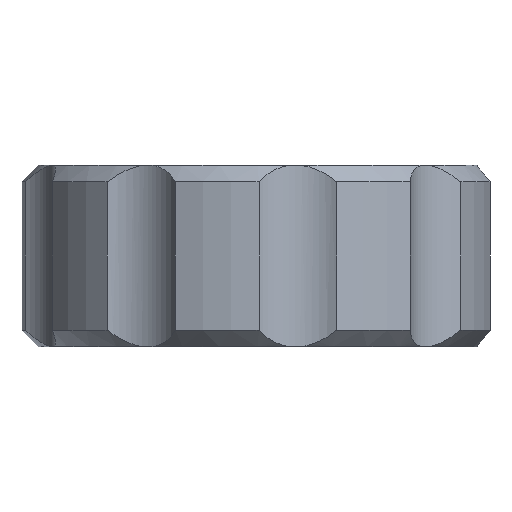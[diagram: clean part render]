
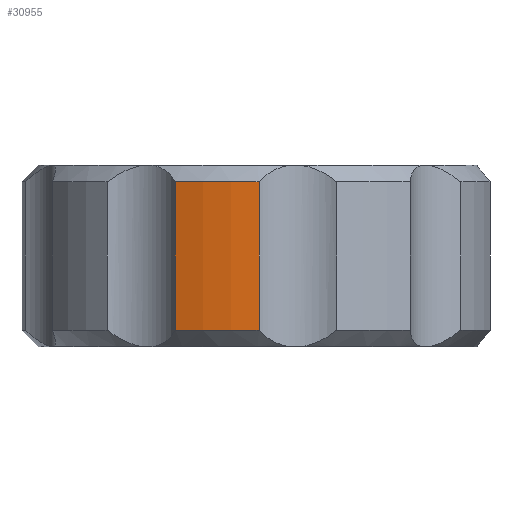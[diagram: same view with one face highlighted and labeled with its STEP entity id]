
A CAD part, left-side view. The second image highlights one B-rep face of the part: STEP entity #30955.
In plain terms, the highlighted cylindrical face has radius 7 mm (diameter 14 mm), a partial arc.
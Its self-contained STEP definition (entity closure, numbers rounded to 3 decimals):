
#1845 = CONICAL_SURFACE('',#1846,7.,0.785);
#1846 = AXIS2_PLACEMENT_3D('',#1847,#1848,#1849);
#1847 = CARTESIAN_POINT('',(196.,-56.5,30.7));
#1848 = DIRECTION('',(-0.,-0.,-1.));
#1849 = DIRECTION('',(1.,0.,0.));
#7015 = CONICAL_SURFACE('',#7016,7.,0.785);
#7016 = AXIS2_PLACEMENT_3D('',#7017,#7018,#7019);
#7017 = CARTESIAN_POINT('',(196.,-56.5,26.3));
#7018 = DIRECTION('',(0.,0.,1.));
#7019 = DIRECTION('',(1.,0.,-0.));
#12091 = CYLINDRICAL_SURFACE('',#12092,1.9);
#12092 = AXIS2_PLACEMENT_3D('',#12093,#12094,#12095);
#12093 = CARTESIAN_POINT('',(188.725,-52.3,24.8));
#12094 = DIRECTION('',(-0.,-0.,-1.));
#12095 = DIRECTION('',(1.,0.,0.));
#13141 = VERTEX_POINT('',#13142);
#13142 = CARTESIAN_POINT('',(189.,-56.548,30.7));
#13224 = CYLINDRICAL_SURFACE('',#13225,1.9);
#13225 = AXIS2_PLACEMENT_3D('',#13226,#13227,#13228);
#13226 = CARTESIAN_POINT('',(187.728,-57.959,24.8));
#13227 = DIRECTION('',(-0.,-0.,-1.));
#13228 = DIRECTION('',(1.,0.,0.));
#13272 = VERTEX_POINT('',#13273);
#13273 = CARTESIAN_POINT('',(189.439,-54.061,30.7));
#13396 = EDGE_CURVE('',#13141,#13272,#13397,.T.);
#13397 = SURFACE_CURVE('',#13398,(#13403,#13410),.PCURVE_S1.);
#13398 = CIRCLE('',#13399,7.);
#13399 = AXIS2_PLACEMENT_3D('',#13400,#13401,#13402);
#13400 = CARTESIAN_POINT('',(196.,-56.5,30.7));
#13401 = DIRECTION('',(0.,0.,-1.));
#13402 = DIRECTION('',(0.937,0.348,0.));
#13403 = PCURVE('',#1845,#13404);
#13404 = DEFINITIONAL_REPRESENTATION('',(#13405),#13409);
#13405 = LINE('',#13406,#13407);
#13406 = CARTESIAN_POINT('',(-6.639,-0.));
#13407 = VECTOR('',#13408,1.);
#13408 = DIRECTION('',(1.,-0.));
#13409 = ( GEOMETRIC_REPRESENTATION_CONTEXT(2) 
PARAMETRIC_REPRESENTATION_CONTEXT() REPRESENTATION_CONTEXT('2D SPACE',''
  ) );
#13410 = PCURVE('',#13411,#13416);
#13411 = CYLINDRICAL_SURFACE('',#13412,7.);
#13412 = AXIS2_PLACEMENT_3D('',#13413,#13414,#13415);
#13413 = CARTESIAN_POINT('',(196.,-56.5,25.8));
#13414 = DIRECTION('',(-0.,-0.,-1.));
#13415 = DIRECTION('',(1.,0.,0.));
#13416 = DEFINITIONAL_REPRESENTATION('',(#13417),#13421);
#13417 = LINE('',#13418,#13419);
#13418 = CARTESIAN_POINT('',(-6.639,-4.9));
#13419 = VECTOR('',#13420,1.);
#13420 = DIRECTION('',(1.,-0.));
#13421 = ( GEOMETRIC_REPRESENTATION_CONTEXT(2) 
PARAMETRIC_REPRESENTATION_CONTEXT() REPRESENTATION_CONTEXT('2D SPACE',''
  ) );
#22436 = VERTEX_POINT('',#22437);
#22437 = CARTESIAN_POINT('',(189.439,-54.061,26.3));
#22560 = EDGE_CURVE('',#22436,#22561,#22563,.T.);
#22561 = VERTEX_POINT('',#22562);
#22562 = CARTESIAN_POINT('',(189.,-56.548,26.3));
#22563 = SURFACE_CURVE('',#22564,(#22569,#22576),.PCURVE_S1.);
#22564 = CIRCLE('',#22565,7.);
#22565 = AXIS2_PLACEMENT_3D('',#22566,#22567,#22568);
#22566 = CARTESIAN_POINT('',(196.,-56.5,26.3));
#22567 = DIRECTION('',(0.,-0.,1.));
#22568 = DIRECTION('',(0.18,0.984,0.));
#22569 = PCURVE('',#7015,#22570);
#22570 = DEFINITIONAL_REPRESENTATION('',(#22571),#22575);
#22571 = LINE('',#22572,#22573);
#22572 = CARTESIAN_POINT('',(1.389,-0.));
#22573 = VECTOR('',#22574,1.);
#22574 = DIRECTION('',(1.,-0.));
#22575 = ( GEOMETRIC_REPRESENTATION_CONTEXT(2) 
PARAMETRIC_REPRESENTATION_CONTEXT() REPRESENTATION_CONTEXT('2D SPACE',''
  ) );
#22576 = PCURVE('',#13411,#22577);
#22577 = DEFINITIONAL_REPRESENTATION('',(#22578),#22582);
#22578 = LINE('',#22579,#22580);
#22579 = CARTESIAN_POINT('',(-1.389,-0.5));
#22580 = VECTOR('',#22581,1.);
#22581 = DIRECTION('',(-1.,0.));
#22582 = ( GEOMETRIC_REPRESENTATION_CONTEXT(2) 
PARAMETRIC_REPRESENTATION_CONTEXT() REPRESENTATION_CONTEXT('2D SPACE',''
  ) );
#30832 = EDGE_CURVE('',#13272,#22436,#30833,.T.);
#30833 = SURFACE_CURVE('',#30834,(#30838,#30844),.PCURVE_S1.);
#30834 = LINE('',#30835,#30836);
#30835 = CARTESIAN_POINT('',(189.439,-54.061,25.8));
#30836 = VECTOR('',#30837,1.);
#30837 = DIRECTION('',(-0.,-0.,-1.));
#30838 = PCURVE('',#12091,#30839);
#30839 = DEFINITIONAL_REPRESENTATION('',(#30840),#30843);
#30840 = B_SPLINE_CURVE_WITH_KNOTS('',1,(#30841,#30842),.UNSPECIFIED.,
  .F.,.F.,(2,2),(-4.9,-0.5),.PIECEWISE_BEZIER_KNOTS.);
#30841 = CARTESIAN_POINT('',(-5.097,-5.9));
#30842 = CARTESIAN_POINT('',(-5.097,-1.5));
#30843 = ( GEOMETRIC_REPRESENTATION_CONTEXT(2) 
PARAMETRIC_REPRESENTATION_CONTEXT() REPRESENTATION_CONTEXT('2D SPACE',''
  ) );
#30844 = PCURVE('',#13411,#30845);
#30845 = DEFINITIONAL_REPRESENTATION('',(#30846),#30849);
#30846 = B_SPLINE_CURVE_WITH_KNOTS('',1,(#30847,#30848),.UNSPECIFIED.,
  .F.,.F.,(2,2),(-4.9,-0.5),.PIECEWISE_BEZIER_KNOTS.);
#30847 = CARTESIAN_POINT('',(-2.786,-4.9));
#30848 = CARTESIAN_POINT('',(-2.786,-0.5));
#30849 = ( GEOMETRIC_REPRESENTATION_CONTEXT(2) 
PARAMETRIC_REPRESENTATION_CONTEXT() REPRESENTATION_CONTEXT('2D SPACE',''
  ) );
#30916 = EDGE_CURVE('',#13141,#22561,#30917,.T.);
#30917 = SURFACE_CURVE('',#30918,(#30922,#30928),.PCURVE_S1.);
#30918 = LINE('',#30919,#30920);
#30919 = CARTESIAN_POINT('',(189.,-56.548,25.8));
#30920 = VECTOR('',#30921,1.);
#30921 = DIRECTION('',(-0.,-0.,-1.));
#30922 = PCURVE('',#13224,#30923);
#30923 = DEFINITIONAL_REPRESENTATION('',(#30924),#30927);
#30924 = B_SPLINE_CURVE_WITH_KNOTS('',1,(#30925,#30926),.UNSPECIFIED.,
  .F.,.F.,(2,2),(-4.9,-0.5),.PIECEWISE_BEZIER_KNOTS.);
#30925 = CARTESIAN_POINT('',(-7.12,-5.9));
#30926 = CARTESIAN_POINT('',(-7.12,-1.5));
#30927 = ( GEOMETRIC_REPRESENTATION_CONTEXT(2) 
PARAMETRIC_REPRESENTATION_CONTEXT() REPRESENTATION_CONTEXT('2D SPACE',''
  ) );
#30928 = PCURVE('',#13411,#30929);
#30929 = DEFINITIONAL_REPRESENTATION('',(#30930),#30933);
#30930 = B_SPLINE_CURVE_WITH_KNOTS('',1,(#30931,#30932),.UNSPECIFIED.,
  .F.,.F.,(2,2),(-4.9,-0.5),.PIECEWISE_BEZIER_KNOTS.);
#30931 = CARTESIAN_POINT('',(-3.148,-4.9));
#30932 = CARTESIAN_POINT('',(-3.148,-0.5));
#30933 = ( GEOMETRIC_REPRESENTATION_CONTEXT(2) 
PARAMETRIC_REPRESENTATION_CONTEXT() REPRESENTATION_CONTEXT('2D SPACE',''
  ) );
#30955 = ADVANCED_FACE('',(#30956),#13411,.T.);
#30956 = FACE_BOUND('',#30957,.F.);
#30957 = EDGE_LOOP('',(#30958,#30959,#30960,#30961));
#30958 = ORIENTED_EDGE('',*,*,#13396,.F.);
#30959 = ORIENTED_EDGE('',*,*,#30916,.T.);
#30960 = ORIENTED_EDGE('',*,*,#22560,.F.);
#30961 = ORIENTED_EDGE('',*,*,#30832,.F.);
